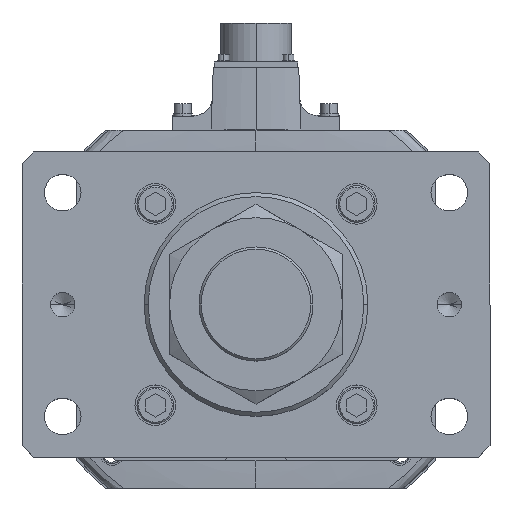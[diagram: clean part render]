
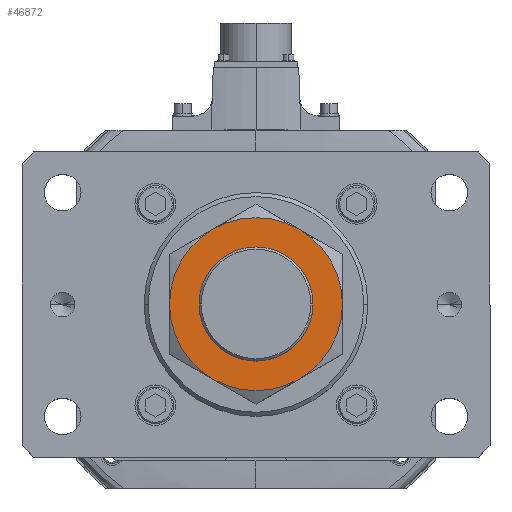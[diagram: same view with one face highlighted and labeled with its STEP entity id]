
A CAD part, top view. The second image highlights one B-rep face of the part: STEP entity #46872.
In plain terms, the highlighted planar face has unit normal (0, 0, 1).
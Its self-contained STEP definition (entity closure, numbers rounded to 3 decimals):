
#339 = DIRECTION ( 'NONE',  ( 0., 0., 1. ) ) ;
#557 = VERTEX_POINT ( 'NONE', #24391 ) ;
#968 = CIRCLE ( 'NONE', #39584, 42.5 ) ;
#1383 = DIRECTION ( 'NONE',  ( 0., 0., -1. ) ) ;
#1496 = EDGE_CURVE ( 'NONE', #6544, #52781, #20788, .T. ) ;
#1503 = CIRCLE ( 'NONE', #14436, 28. ) ;
#1988 = EDGE_CURVE ( 'NONE', #23817, #40501, #1503, .T. ) ;
#2089 = CIRCLE ( 'NONE', #48986, 42.5 ) ;
#2644 = EDGE_CURVE ( 'NONE', #16694, #557, #2089, .T. ) ;
#2791 = DIRECTION ( 'NONE',  ( 0., 0., -1. ) ) ;
#3016 = DIRECTION ( 'NONE',  ( 1., 0., 0. ) ) ;
#3025 = EDGE_CURVE ( 'NONE', #52781, #46578, #47266, .T. ) ;
#3664 = EDGE_LOOP ( 'NONE', ( #50513, #16388 ) ) ;
#6274 = EDGE_CURVE ( 'NONE', #9077, #16694, #10509, .T. ) ;
#6544 = VERTEX_POINT ( 'NONE', #44194 ) ;
#6622 = AXIS2_PLACEMENT_3D ( 'NONE', #40082, #14635, #44391 ) ;
#6682 = DIRECTION ( 'NONE',  ( 1., 0., 0. ) ) ;
#7973 = EDGE_CURVE ( 'NONE', #557, #6544, #968, .T. ) ;
#9033 = AXIS2_PLACEMENT_3D ( 'NONE', #21359, #339, #16536 ) ;
#9077 = VERTEX_POINT ( 'NONE', #11028 ) ;
#9466 = CARTESIAN_POINT ( 'NONE',  ( -21.25, 36.806, 34. ) ) ;
#10298 = CARTESIAN_POINT ( 'NONE',  ( 0., 0., 34. ) ) ;
#10509 = CIRCLE ( 'NONE', #51657, 42.5 ) ;
#10548 = AXIS2_PLACEMENT_3D ( 'NONE', #28971, #20928, #41582 ) ;
#10947 = EDGE_CURVE ( 'NONE', #40501, #23817, #18628, .T. ) ;
#11017 = DIRECTION ( 'NONE',  ( 0., 0., -1. ) ) ;
#11028 = CARTESIAN_POINT ( 'NONE',  ( 21.25, 36.806, 34. ) ) ;
#11139 = CARTESIAN_POINT ( 'NONE',  ( 0., 0., 34. ) ) ;
#11180 = AXIS2_PLACEMENT_3D ( 'NONE', #23670, #11017, #3016 ) ;
#13232 = AXIS2_PLACEMENT_3D ( 'NONE', #10298, #40035, #35441 ) ;
#13964 = ORIENTED_EDGE ( 'NONE', *, *, #2644, .F. ) ;
#14436 = AXIS2_PLACEMENT_3D ( 'NONE', #28627, #20392, #49987 ) ;
#14635 = DIRECTION ( 'NONE',  ( 0., 0., -1. ) ) ;
#15923 = EDGE_LOOP ( 'NONE', ( #13964, #25037, #21635, #46056, #46268, #17784 ) ) ;
#16388 = ORIENTED_EDGE ( 'NONE', *, *, #1988, .F. ) ;
#16536 = DIRECTION ( 'NONE',  ( 1., 0., 0. ) ) ;
#16694 = VERTEX_POINT ( 'NONE', #51322 ) ;
#17552 = CIRCLE ( 'NONE', #13232, 42.5 ) ;
#17784 = ORIENTED_EDGE ( 'NONE', *, *, #7973, .F. ) ;
#18628 = CIRCLE ( 'NONE', #9033, 28. ) ;
#20392 = DIRECTION ( 'NONE',  ( 0., 0., 1. ) ) ;
#20788 = CIRCLE ( 'NONE', #11180, 42.5 ) ;
#20928 = DIRECTION ( 'NONE',  ( 0., 0., 1. ) ) ;
#21359 = CARTESIAN_POINT ( 'NONE',  ( 0., 0., 34. ) ) ;
#21635 = ORIENTED_EDGE ( 'NONE', *, *, #33465, .F. ) ;
#23670 = CARTESIAN_POINT ( 'NONE',  ( 0., 0., 34. ) ) ;
#23817 = VERTEX_POINT ( 'NONE', #45808 ) ;
#24331 = CARTESIAN_POINT ( 'NONE',  ( 0., 0., 34. ) ) ;
#24391 = CARTESIAN_POINT ( 'NONE',  ( 21.25, -36.806, 34. ) ) ;
#25037 = ORIENTED_EDGE ( 'NONE', *, *, #6274, .F. ) ;
#28627 = CARTESIAN_POINT ( 'NONE',  ( 0., 0., 34. ) ) ;
#28870 = FACE_OUTER_BOUND ( 'NONE', #15923, .T. ) ;
#28971 = CARTESIAN_POINT ( 'NONE',  ( 0., 0., 34. ) ) ;
#29525 = FACE_BOUND ( 'NONE', #3664, .T. ) ;
#31520 = CARTESIAN_POINT ( 'NONE',  ( 0., 0., 34. ) ) ;
#32911 = DIRECTION ( 'NONE',  ( 0., 0., -1. ) ) ;
#33465 = EDGE_CURVE ( 'NONE', #46578, #9077, #17552, .T. ) ;
#33811 = PLANE ( 'NONE',  #10548 ) ;
#35441 = DIRECTION ( 'NONE',  ( 1., 0., 0. ) ) ;
#38785 = CARTESIAN_POINT ( 'NONE',  ( -28., 0., 34. ) ) ;
#39584 = AXIS2_PLACEMENT_3D ( 'NONE', #31520, #1383, #44503 ) ;
#40035 = DIRECTION ( 'NONE',  ( 0., 0., -1. ) ) ;
#40082 = CARTESIAN_POINT ( 'NONE',  ( 0., 0., 34. ) ) ;
#40501 = VERTEX_POINT ( 'NONE', #38785 ) ;
#40856 = DIRECTION ( 'NONE',  ( 1., 0., 0. ) ) ;
#41582 = DIRECTION ( 'NONE',  ( 1., 0., 0. ) ) ;
#44194 = CARTESIAN_POINT ( 'NONE',  ( -21.25, -36.806, 34. ) ) ;
#44391 = DIRECTION ( 'NONE',  ( -1., 0., 0. ) ) ;
#44503 = DIRECTION ( 'NONE',  ( 1., 0., 0. ) ) ;
#45808 = CARTESIAN_POINT ( 'NONE',  ( 28., 0., 34. ) ) ;
#46056 = ORIENTED_EDGE ( 'NONE', *, *, #3025, .F. ) ;
#46268 = ORIENTED_EDGE ( 'NONE', *, *, #1496, .F. ) ;
#46578 = VERTEX_POINT ( 'NONE', #9466 ) ;
#46872 = ADVANCED_FACE ( 'NONE', ( #28870, #29525 ), #33811, .T. ) ;
#47266 = CIRCLE ( 'NONE', #6622, 42.5 ) ;
#48986 = AXIS2_PLACEMENT_3D ( 'NONE', #11139, #2791, #40856 ) ;
#49987 = DIRECTION ( 'NONE',  ( 1., 0., 0. ) ) ;
#50513 = ORIENTED_EDGE ( 'NONE', *, *, #10947, .F. ) ;
#50608 = CARTESIAN_POINT ( 'NONE',  ( -42.5, 0., 34. ) ) ;
#51322 = CARTESIAN_POINT ( 'NONE',  ( 42.5, 0., 34. ) ) ;
#51657 = AXIS2_PLACEMENT_3D ( 'NONE', #24331, #32911, #6682 ) ;
#52781 = VERTEX_POINT ( 'NONE', #50608 ) ;
